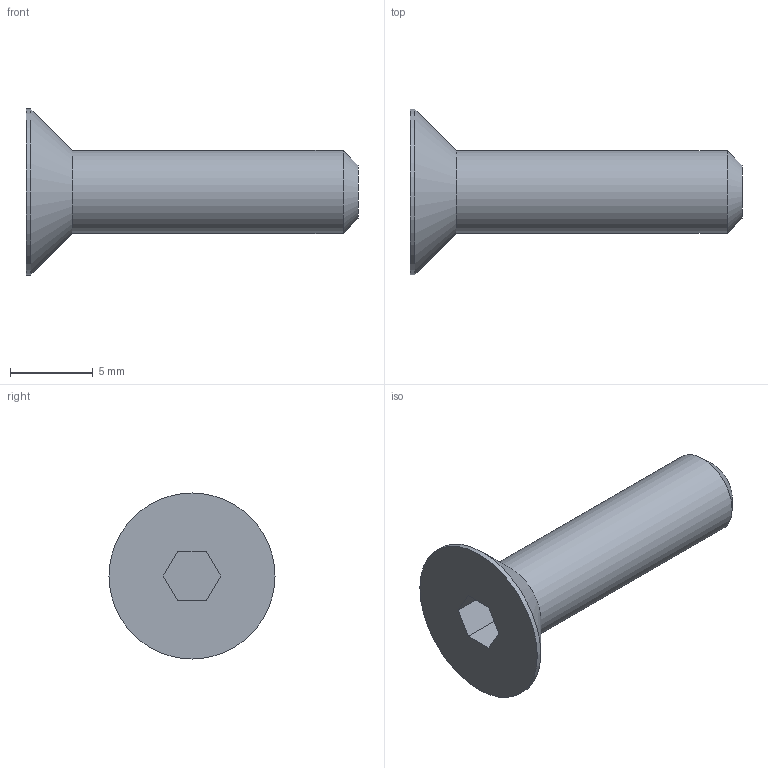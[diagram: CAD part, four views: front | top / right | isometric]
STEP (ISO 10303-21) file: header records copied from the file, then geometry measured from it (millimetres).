
FILE_DESCRIPTION( ( 'STEP AP203' ), '1' );
FILE_NAME( 'C:/FCS-05.stp', '2013-10-15T01:23:02', ( ' ' ), ( ' ' ), 'XStep 1.0', ' ', ' ' );
FILE_SCHEMA( ( 'CONFIG_CONTROL_DESIGN' ) );
Length unit declared in the file: metre
Products named in the file (1): 1
Bounding box: 20 x 10 x 10 mm (x, y, z)
Volume: 443 mm3; surface area: 494.3 mm2
Topology: 1 solids, 1 shells, 13 faces, 27 edges, 17 vertices
Faces by surface type: bspline 13
Entity records: 420 total; most frequent: CARTESIAN_POINT 155, ORIENTED_EDGE 46, DIRECTION 28, EDGE_CURVE 23, EDGE_LOOP 18, FACE_OUTER_BOUND 17, VERTEX_POINT 17, LINE 16
